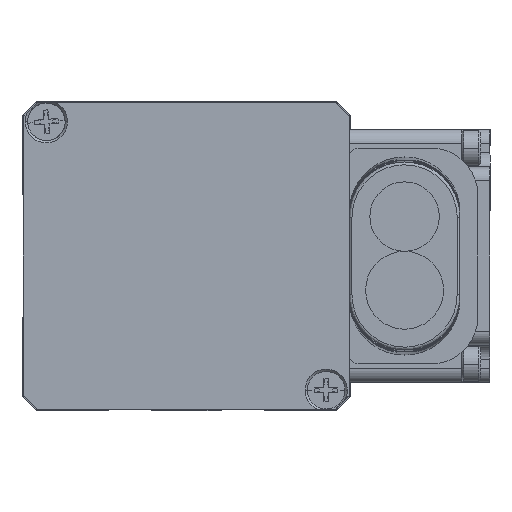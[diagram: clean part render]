
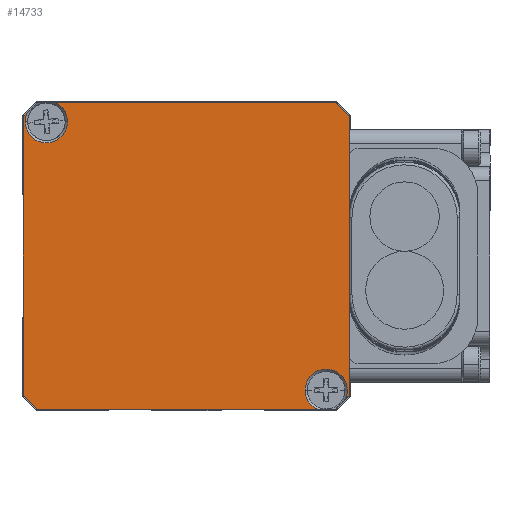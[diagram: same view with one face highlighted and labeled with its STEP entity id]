
A CAD part, front view. The second image highlights one B-rep face of the part: STEP entity #14733.
In plain terms, the highlighted planar face has unit normal (0, -1, 0).
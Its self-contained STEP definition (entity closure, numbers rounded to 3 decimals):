
#38 = AXIS2_PLACEMENT_3D ( 'NONE', #19334, #1692, #25335 ) ;
#92 = VERTEX_POINT ( 'NONE', #20961 ) ;
#1187 = VERTEX_POINT ( 'NONE', #1417 ) ;
#1192 = DIRECTION ( 'NONE',  ( 0.707, 0., -0.707 ) ) ;
#1234 = CARTESIAN_POINT ( 'NONE',  ( -14.9, -22.5, 15.3 ) ) ;
#1417 = CARTESIAN_POINT ( 'NONE',  ( 13.973, -22.5, -15.35 ) ) ;
#1684 = DIRECTION ( 'NONE',  ( 0., 0., 1. ) ) ;
#1692 = DIRECTION ( 'NONE',  ( 0., 1., 0. ) ) ;
#2478 = EDGE_CURVE ( 'NONE', #7785, #13537, #12901, .T. ) ;
#3151 = CARTESIAN_POINT ( 'NONE',  ( -17.35, -22.5, -13.85 ) ) ;
#3303 = VERTEX_POINT ( 'NONE', #12798 ) ;
#3346 = CIRCLE ( 'NONE', #7102, 2.25 ) ;
#3517 = EDGE_CURVE ( 'NONE', #3303, #13508, #23896, .T. ) ;
#3696 = VERTEX_POINT ( 'NONE', #17936 ) ;
#3741 = CARTESIAN_POINT ( 'NONE',  ( -12.65, -22.5, 15.3 ) ) ;
#4252 = CARTESIAN_POINT ( 'NONE',  ( 17.35, -22.5, 15.85 ) ) ;
#4696 = ORIENTED_EDGE ( 'NONE', *, *, #6958, .T. ) ;
#4972 = VERTEX_POINT ( 'NONE', #25491 ) ;
#5246 = LINE ( 'NONE', #3151, #7381 ) ;
#5283 = DIRECTION ( 'NONE',  ( 0., -1., 0. ) ) ;
#5290 = DIRECTION ( 'NONE',  ( -0.707, 0., 0.707 ) ) ;
#5547 = VECTOR ( 'NONE', #11338, 1000. ) ;
#5652 = VERTEX_POINT ( 'NONE', #7131 ) ;
#5737 = EDGE_CURVE ( 'NONE', #18553, #4972, #23071, .T. ) ;
#6167 = DIRECTION ( 'NONE',  ( -1., 0., 0. ) ) ;
#6239 = DIRECTION ( 'NONE',  ( -1., 0., 0. ) ) ;
#6381 = EDGE_LOOP ( 'NONE', ( #6769, #17397, #19410, #17311, #4696, #20134, #23768, #11768, #24561, #22324, #17002, #25061, #12900, #19305 ) ) ;
#6559 = CARTESIAN_POINT ( 'NONE',  ( 14.9, -22.5, -13.3 ) ) ;
#6762 = VECTOR ( 'NONE', #22258, 1000. ) ;
#6769 = ORIENTED_EDGE ( 'NONE', *, *, #15169, .F. ) ;
#6906 = CIRCLE ( 'NONE', #17733, 2.25 ) ;
#6958 = EDGE_CURVE ( 'NONE', #7785, #13508, #17436, .T. ) ;
#7102 = AXIS2_PLACEMENT_3D ( 'NONE', #23295, #7119, #15581 ) ;
#7119 = DIRECTION ( 'NONE',  ( 0., -1., 0. ) ) ;
#7131 = CARTESIAN_POINT ( 'NONE',  ( 17.35, -22.5, -13.85 ) ) ;
#7381 = VECTOR ( 'NONE', #1192, 1000. ) ;
#7509 = DIRECTION ( 'NONE',  ( -0.707, 0., -0.707 ) ) ;
#7737 = DIRECTION ( 'NONE',  ( -1., 0., 0. ) ) ;
#7785 = VERTEX_POINT ( 'NONE', #9251 ) ;
#7851 = VECTOR ( 'NONE', #7509, 1000. ) ;
#8181 = CARTESIAN_POINT ( 'NONE',  ( -14.9, -22.5, 15.3 ) ) ;
#8194 = EDGE_CURVE ( 'NONE', #20191, #3696, #3346, .T. ) ;
#8452 = CARTESIAN_POINT ( 'NONE',  ( -13.973, -22.5, 17.35 ) ) ;
#8538 = VECTOR ( 'NONE', #23046, 1000. ) ;
#9003 = AXIS2_PLACEMENT_3D ( 'NONE', #6559, #24056, #6167 ) ;
#9251 = CARTESIAN_POINT ( 'NONE',  ( -16.93, -22.5, 16.27 ) ) ;
#9524 = FACE_OUTER_BOUND ( 'NONE', #6381, .T. ) ;
#9625 = VECTOR ( 'NONE', #1684, 1000. ) ;
#9719 = DIRECTION ( 'NONE',  ( 0., -1., 0. ) ) ;
#9790 = DIRECTION ( 'NONE',  ( -1., 0., 0. ) ) ;
#10340 = EDGE_CURVE ( 'NONE', #92, #5652, #19548, .T. ) ;
#10667 = DIRECTION ( 'NONE',  ( 0., 0., -1. ) ) ;
#11042 = CARTESIAN_POINT ( 'NONE',  ( 17.35, -22.5, -15.35 ) ) ;
#11178 = CARTESIAN_POINT ( 'NONE',  ( -15.85, -22.5, 17.35 ) ) ;
#11228 = DIRECTION ( 'NONE',  ( 0., -1., 0. ) ) ;
#11280 = LINE ( 'NONE', #17149, #8538 ) ;
#11338 = DIRECTION ( 'NONE',  ( 0.707, 0., 0.707 ) ) ;
#11543 = CARTESIAN_POINT ( 'NONE',  ( 17.15, -22.5, -13.3 ) ) ;
#11768 = ORIENTED_EDGE ( 'NONE', *, *, #24717, .F. ) ;
#12611 = VECTOR ( 'NONE', #5290, 1000. ) ;
#12798 = CARTESIAN_POINT ( 'NONE',  ( -17.35, -22.5, -13.85 ) ) ;
#12862 = LINE ( 'NONE', #11042, #23405 ) ;
#12900 = ORIENTED_EDGE ( 'NONE', *, *, #25424, .F. ) ;
#12901 = CIRCLE ( 'NONE', #18336, 2.25 ) ;
#13508 = VERTEX_POINT ( 'NONE', #18638 ) ;
#13537 = VERTEX_POINT ( 'NONE', #14581 ) ;
#14581 = CARTESIAN_POINT ( 'NONE',  ( -17.15, -22.5, 15.3 ) ) ;
#14710 = CARTESIAN_POINT ( 'NONE',  ( 17.35, -22.5, 15.85 ) ) ;
#14733 = ADVANCED_FACE ( 'NONE', ( #9524 ), #15275, .F. ) ;
#14871 = EDGE_CURVE ( 'NONE', #22667, #18147, #16303, .T. ) ;
#15169 = EDGE_CURVE ( 'NONE', #18147, #4972, #11280, .T. ) ;
#15275 = PLANE ( 'NONE',  #38 ) ;
#15354 = CARTESIAN_POINT ( 'NONE',  ( -15.85, -22.5, -15.35 ) ) ;
#15581 = DIRECTION ( 'NONE',  ( -1., 0., 0. ) ) ;
#16303 = CIRCLE ( 'NONE', #17133, 2.25 ) ;
#17002 = ORIENTED_EDGE ( 'NONE', *, *, #22379, .F. ) ;
#17133 = AXIS2_PLACEMENT_3D ( 'NONE', #8181, #24126, #6239 ) ;
#17149 = CARTESIAN_POINT ( 'NONE',  ( -17.35, -22.5, 17.35 ) ) ;
#17236 = CARTESIAN_POINT ( 'NONE',  ( 14.9, -22.5, -13.3 ) ) ;
#17311 = ORIENTED_EDGE ( 'NONE', *, *, #2478, .F. ) ;
#17397 = ORIENTED_EDGE ( 'NONE', *, *, #14871, .F. ) ;
#17436 = LINE ( 'NONE', #11178, #7851 ) ;
#17733 = AXIS2_PLACEMENT_3D ( 'NONE', #17236, #11228, #9790 ) ;
#17936 = CARTESIAN_POINT ( 'NONE',  ( 12.65, -22.5, -13.3 ) ) ;
#18005 = AXIS2_PLACEMENT_3D ( 'NONE', #23824, #9719, #7737 ) ;
#18147 = VERTEX_POINT ( 'NONE', #8452 ) ;
#18336 = AXIS2_PLACEMENT_3D ( 'NONE', #1234, #5283, #23065 ) ;
#18553 = VERTEX_POINT ( 'NONE', #4252 ) ;
#18638 = CARTESIAN_POINT ( 'NONE',  ( -17.35, -22.5, 15.85 ) ) ;
#18951 = CARTESIAN_POINT ( 'NONE',  ( -17.35, -22.5, -15.35 ) ) ;
#19305 = ORIENTED_EDGE ( 'NONE', *, *, #5737, .T. ) ;
#19334 = CARTESIAN_POINT ( 'NONE',  ( 0., -22.5, 1. ) ) ;
#19339 = EDGE_CURVE ( 'NONE', #3303, #25210, #5246, .T. ) ;
#19410 = ORIENTED_EDGE ( 'NONE', *, *, #24643, .F. ) ;
#19548 = LINE ( 'NONE', #25055, #5547 ) ;
#20134 = ORIENTED_EDGE ( 'NONE', *, *, #3517, .F. ) ;
#20191 = VERTEX_POINT ( 'NONE', #11543 ) ;
#20961 = CARTESIAN_POINT ( 'NONE',  ( 16.93, -22.5, -14.27 ) ) ;
#21799 = CARTESIAN_POINT ( 'NONE',  ( -17.35, -22.5, -15.35 ) ) ;
#22258 = DIRECTION ( 'NONE',  ( -1., 0., 0. ) ) ;
#22324 = ORIENTED_EDGE ( 'NONE', *, *, #8194, .F. ) ;
#22379 = EDGE_CURVE ( 'NONE', #92, #20191, #6906, .T. ) ;
#22667 = VERTEX_POINT ( 'NONE', #3741 ) ;
#23046 = DIRECTION ( 'NONE',  ( 1., 0., 0. ) ) ;
#23065 = DIRECTION ( 'NONE',  ( -1., 0., 0. ) ) ;
#23071 = LINE ( 'NONE', #14710, #12611 ) ;
#23295 = CARTESIAN_POINT ( 'NONE',  ( 14.9, -22.5, -13.3 ) ) ;
#23308 = EDGE_CURVE ( 'NONE', #3696, #1187, #24872, .T. ) ;
#23405 = VECTOR ( 'NONE', #10667, 1000. ) ;
#23768 = ORIENTED_EDGE ( 'NONE', *, *, #19339, .T. ) ;
#23824 = CARTESIAN_POINT ( 'NONE',  ( -14.9, -22.5, 15.3 ) ) ;
#23896 = LINE ( 'NONE', #21799, #9625 ) ;
#24056 = DIRECTION ( 'NONE',  ( 0., -1., 0. ) ) ;
#24126 = DIRECTION ( 'NONE',  ( 0., -1., 0. ) ) ;
#24561 = ORIENTED_EDGE ( 'NONE', *, *, #23308, .F. ) ;
#24643 = EDGE_CURVE ( 'NONE', #13537, #22667, #25513, .T. ) ;
#24717 = EDGE_CURVE ( 'NONE', #1187, #25210, #25077, .T. ) ;
#24872 = CIRCLE ( 'NONE', #9003, 2.25 ) ;
#25055 = CARTESIAN_POINT ( 'NONE',  ( 15.85, -22.5, -15.35 ) ) ;
#25061 = ORIENTED_EDGE ( 'NONE', *, *, #10340, .T. ) ;
#25077 = LINE ( 'NONE', #18951, #6762 ) ;
#25210 = VERTEX_POINT ( 'NONE', #15354 ) ;
#25335 = DIRECTION ( 'NONE',  ( 1., 0., 0. ) ) ;
#25424 = EDGE_CURVE ( 'NONE', #18553, #5652, #12862, .T. ) ;
#25491 = CARTESIAN_POINT ( 'NONE',  ( 15.85, -22.5, 17.35 ) ) ;
#25513 = CIRCLE ( 'NONE', #18005, 2.25 ) ;
